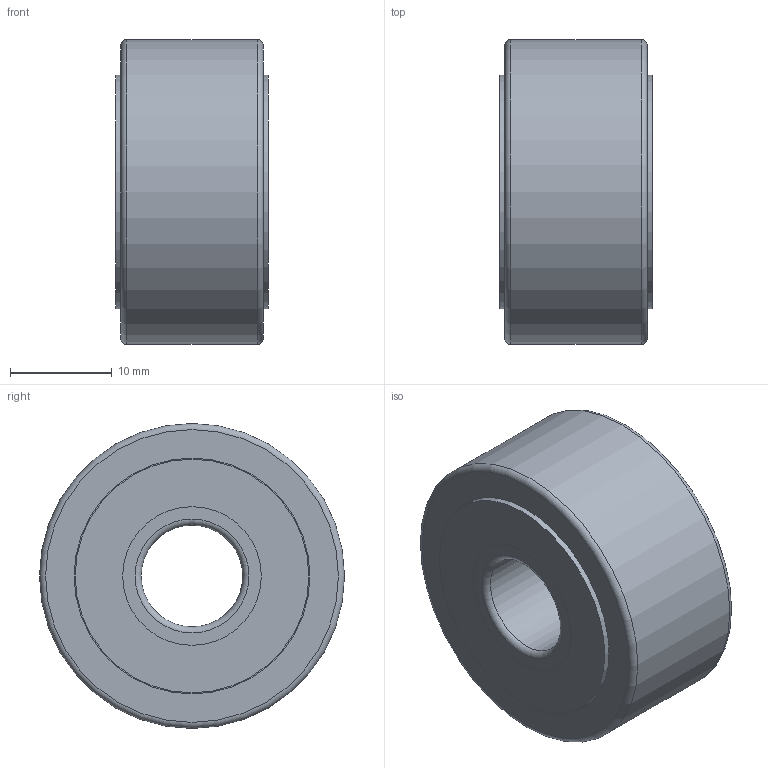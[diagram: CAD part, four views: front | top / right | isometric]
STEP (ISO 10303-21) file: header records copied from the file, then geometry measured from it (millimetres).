
FILE_DESCRIPTION(/* description */ (''),/* implementation_level */ '2;1');
FILE_NAME(/* name */ 'C:\Dokumenty D.R\Ložiská 3D\MODELY\Ihlove loziska\NATV-PP\NATV-PP--\NATV10-PP.stp',/* time_stamp */ '2018-06-05T14:35:54+02:00',/* author */ ('OUREHANEKD'),/* organization */ (''),/* preprocessor_version */ 'ST-DEVELOPER v16.13',/* originating_system */ 'Autodesk Inventor 2018',/* authorisation */ '');
FILE_SCHEMA (('AUTOMOTIVE_DESIGN { 1 0 10303 214 3 1 1 }'));
Length unit declared in the file: millimetre
Products named in the file (6): NATV10-PP; NATV10-PP-01; NATV10-PP-shield; NATV10-PP-NBR; NATV10-PP-needle; NATV10-PP-02
Assembly tree (44 placements, depth 2):
  NATV10-PP
    NATV10-PP-01
    NATV10-PP-shield
    NATV10-PP-NBR
    NATV10-PP-needle  x40
    NATV10-PP-02
Bounding box: 15 x 30 x 30 mm (x, y, z)
Volume: 8798 mm3; surface area: 7732.8 mm2
Topology: 46 solids, 46 shells, 161 faces, 185 edges, 122 vertices
Faces by surface type: plane 98, cylinder 59, torus 4
Full cylindrical faces by diameter (mm): 1.008 x40, 1.26 x1, 10 x1, 13.64 x4, 15.04 x1, 17.056 x1, 23 x4, 23.2 x2, 24.12 x4, 30 x1
Entity records: 1499 total; most frequent: DIRECTION 272, CARTESIAN_POINT 248, AXIS2_PLACEMENT_3D 136, EDGE_LOOP 88, ORIENTED_EDGE 88, PRODUCT_DEFINITION_SHAPE 50, ITEM_DEFINED_TRANSFORMATION 44, CONTEXT_DEPENDENT_SHAPE_REPRESENTATION 44
